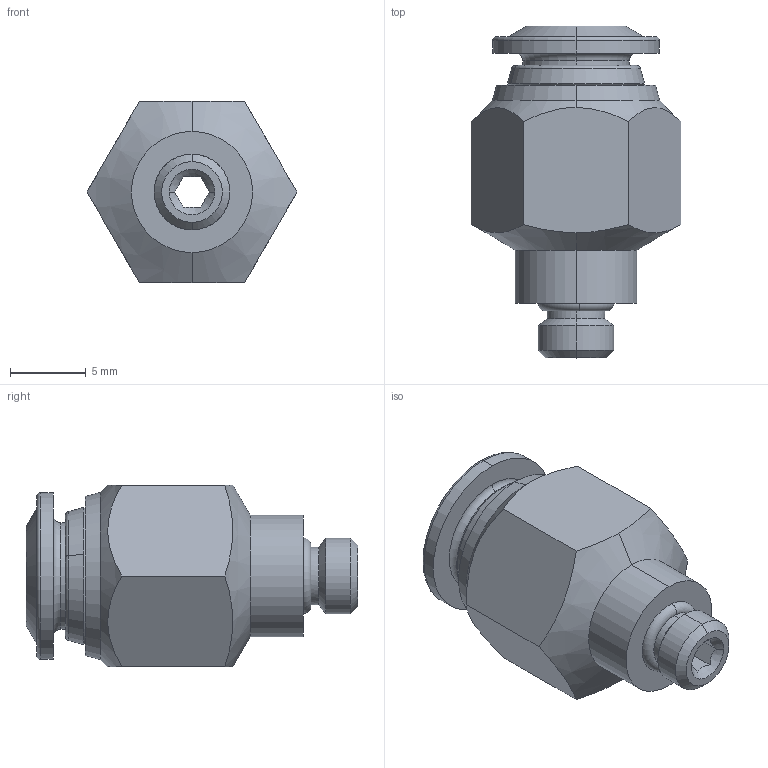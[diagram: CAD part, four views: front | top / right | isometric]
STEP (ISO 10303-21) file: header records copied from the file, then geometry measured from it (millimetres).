
FILE_DESCRIPTION (( 'STEP AP214' ), '1' );
FILE_NAME ('5702000018.STEP', '2024-10-18T09:10:04', ( '' ), ( '' ), 'SwSTEP 2.0', 'SolidWorks 2020', '' );
FILE_SCHEMA (( 'AUTOMOTIVE_DESIGN' ));
Length unit declared in the file: millimetre
Products named in the file (1): 5702000018
Bounding box: 13.86 x 21.9 x 12 mm (x, y, z)
Volume: 1395.6 mm3; surface area: 1237.6 mm2
Topology: 1 solids, 1 shells, 61 faces, 136 edges, 82 vertices
Faces by surface type: cone 22, plane 19, cylinder 12, torus 8
Entity records: 2537 total; most frequent: CARTESIAN_POINT 480, DIRECTION 294, ORIENTED_EDGE 272, EDGE_CURVE 136, AXIS2_PLACEMENT_3D 124, VERTEX_POINT 82, EDGE_LOOP 68, UNCERTAINTY_MEASURE_WITH_UNIT 64
